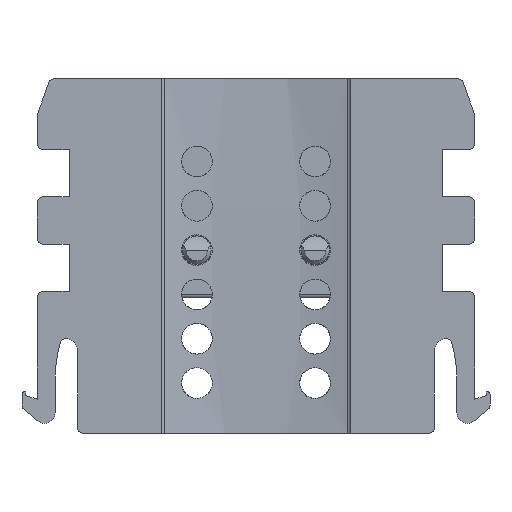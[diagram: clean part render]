
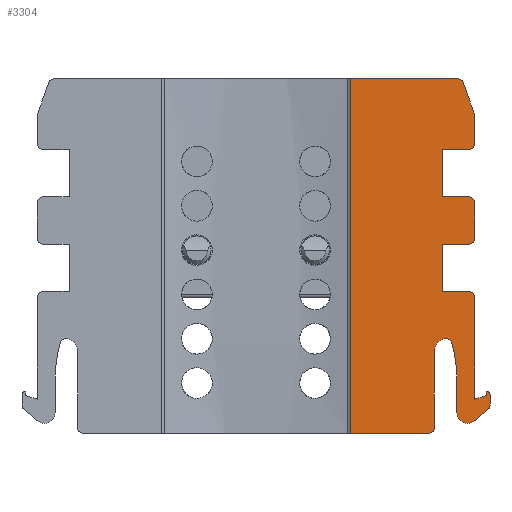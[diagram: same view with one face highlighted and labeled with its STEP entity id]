
A CAD part, front view. The second image highlights one B-rep face of the part: STEP entity #3304.
In plain terms, the highlighted planar face has unit normal (0, -1, 0).
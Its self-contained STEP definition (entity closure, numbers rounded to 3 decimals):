
#1=CARTESIAN_POINT('',(19.3,0.,-27.613));
#2=DIRECTION('',(0.,1.,0.));
#3=DIRECTION('',(1.,0.,0.));
#4=AXIS2_PLACEMENT_3D('',#1,#2,#3);
#6=DIRECTION('',(-0.766,0.,-0.643));
#7=VECTOR('',#6,1.492);
#8=CARTESIAN_POINT('',(19.621,0.,-27.996));
#9=LINE('',#8,#7);
#10=CARTESIAN_POINT('',(17.9,0.,-28.265));
#11=DIRECTION('',(0.,1.,0.));
#12=DIRECTION('',(0.643,0.,-0.766));
#13=AXIS2_PLACEMENT_3D('',#10,#11,#12);
#15=DIRECTION('',(0.,0.,1.));
#16=VECTOR('',#15,2.758);
#17=CARTESIAN_POINT('',(17.,0.,-28.265));
#18=LINE('',#17,#16);
#19=CARTESIAN_POINT('',(5.,0.,-25.507));
#20=DIRECTION('',(0.,-1.,0.));
#21=DIRECTION('',(1.,0.,0.));
#22=AXIS2_PLACEMENT_3D('',#19,#20,#21);
#24=CARTESIAN_POINT('',(16.1,0.,-22.5));
#25=DIRECTION('',(0.,-1.,0.));
#26=DIRECTION('',(0.965,0.,0.261));
#27=AXIS2_PLACEMENT_3D('',#24,#25,#26);
#29=DIRECTION('',(0.,0.,1.));
#30=VECTOR('',#29,6.5);
#31=CARTESIAN_POINT('',(15.1,0.,-29.5));
#32=LINE('',#31,#30);
#33=DIRECTION('',(-1.,0.,0.));
#34=VECTOR('',#33,6.6);
#35=CARTESIAN_POINT('',(14.6,0.,-30.));
#36=LINE('',#35,#34);
#37=DIRECTION('',(0.,0.,-1.));
#38=VECTOR('',#37,30.);
#39=CARTESIAN_POINT('',(8.,0.,0.));
#40=LINE('',#39,#38);
#41=DIRECTION('',(0.342,0.,-0.94));
#42=VECTOR('',#41,2.754);
#43=CARTESIAN_POINT('',(17.528,0.,-0.329));
#44=LINE('',#43,#42);
#45=DIRECTION('',(0.,0.,-1.));
#46=VECTOR('',#45,2.412);
#47=CARTESIAN_POINT('',(18.5,0.,-3.088));
#48=LINE('',#47,#46);
#49=DIRECTION('',(-1.,0.,0.));
#50=VECTOR('',#49,2.2);
#51=CARTESIAN_POINT('',(18.,0.,-6.));
#52=LINE('',#51,#50);
#53=DIRECTION('',(0.,0.,-1.));
#54=VECTOR('',#53,4.);
#55=CARTESIAN_POINT('',(15.8,0.,-6.));
#56=LINE('',#55,#54);
#57=DIRECTION('',(1.,0.,0.));
#58=VECTOR('',#57,2.2);
#59=CARTESIAN_POINT('',(15.8,0.,-10.));
#60=LINE('',#59,#58);
#61=DIRECTION('',(0.,0.,-1.));
#62=VECTOR('',#61,3.);
#63=CARTESIAN_POINT('',(18.5,0.,-10.5));
#64=LINE('',#63,#62);
#65=DIRECTION('',(-1.,0.,0.));
#66=VECTOR('',#65,2.2);
#67=CARTESIAN_POINT('',(18.,0.,-14.));
#68=LINE('',#67,#66);
#69=DIRECTION('',(0.,0.,-1.));
#70=VECTOR('',#69,4.);
#71=CARTESIAN_POINT('',(15.8,0.,-14.));
#72=LINE('',#71,#70);
#73=DIRECTION('',(1.,0.,0.));
#74=VECTOR('',#73,2.2);
#75=CARTESIAN_POINT('',(15.8,0.,-18.));
#76=LINE('',#75,#74);
#77=DIRECTION('',(0.,0.,-1.));
#78=VECTOR('',#77,8.625);
#79=CARTESIAN_POINT('',(18.5,0.,-18.5));
#80=LINE('',#79,#78);
#81=DIRECTION('',(0.951,0.,0.309));
#82=VECTOR('',#81,1.051);
#83=CARTESIAN_POINT('',(18.5,0.,-27.125));
#84=LINE('',#83,#82);
#85=DIRECTION('',(0.,0.,1.));
#86=VECTOR('',#85,0.3);
#87=CARTESIAN_POINT('',(19.5,0.,-26.8));
#88=LINE('',#87,#86);
#89=DIRECTION('',(1.,0.,0.));
#90=VECTOR('',#89,0.1);
#91=CARTESIAN_POINT('',(19.5,0.,-26.5));
#92=LINE('',#91,#90);
#185=DIRECTION('',(0.,0.,1.));
#186=VECTOR('',#185,0.913);
#187=CARTESIAN_POINT('',(19.8,0.,-27.613));
#188=LINE('',#187,#186);
#327=CARTESIAN_POINT('',(16.1,0.,-23.));
#328=DIRECTION('',(0.,1.,0.));
#329=DIRECTION('',(-1.,0.,0.));
#330=AXIS2_PLACEMENT_3D('',#327,#328,#329);
#376=CARTESIAN_POINT('',(18.,0.,-18.5));
#377=DIRECTION('',(0.,-1.,0.));
#378=DIRECTION('',(1.,0.,0.));
#379=AXIS2_PLACEMENT_3D('',#376,#377,#378);
#406=CARTESIAN_POINT('',(19.6,0.,-26.7));
#407=DIRECTION('',(0.,-1.,0.));
#408=DIRECTION('',(1.,0.,0.));
#409=AXIS2_PLACEMENT_3D('',#406,#407,#408);
#424=CARTESIAN_POINT('',(18.,0.,-13.5));
#425=DIRECTION('',(0.,-1.,0.));
#426=DIRECTION('',(0.,0.,-1.));
#427=AXIS2_PLACEMENT_3D('',#424,#425,#426);
#442=CARTESIAN_POINT('',(18.,0.,-10.5));
#443=DIRECTION('',(0.,-1.,0.));
#444=DIRECTION('',(1.,0.,0.));
#445=AXIS2_PLACEMENT_3D('',#442,#443,#444);
#516=CARTESIAN_POINT('',(18.,0.,-5.5));
#517=DIRECTION('',(0.,-1.,0.));
#518=DIRECTION('',(0.,0.,-1.));
#519=AXIS2_PLACEMENT_3D('',#516,#517,#518);
#534=CARTESIAN_POINT('',(18.,0.,-3.088));
#535=DIRECTION('',(0.,-1.,0.));
#536=DIRECTION('',(1.,0.,0.));
#537=AXIS2_PLACEMENT_3D('',#534,#535,#536);
#539=CARTESIAN_POINT('',(18.,0.,-3.088));
#540=DIRECTION('',(0.,-1.,0.));
#541=DIRECTION('',(0.985,0.,0.174));
#542=AXIS2_PLACEMENT_3D('',#539,#540,#541);
#562=CARTESIAN_POINT('',(17.058,0.,-0.5));
#563=DIRECTION('',(0.,-1.,0.));
#564=DIRECTION('',(0.94,0.,0.342));
#565=AXIS2_PLACEMENT_3D('',#562,#563,#564);
#580=DIRECTION('',(-1.,0.,0.));
#581=VECTOR('',#580,9.058);
#582=CARTESIAN_POINT('',(17.058,0.,0.));
#583=LINE('',#582,#581);
#1281=CARTESIAN_POINT('',(14.6,0.,-29.5));
#1282=DIRECTION('',(0.,-1.,0.));
#1283=DIRECTION('',(0.,0.,-1.));
#1284=AXIS2_PLACEMENT_3D('',#1281,#1282,#1283);
#2799=CARTESIAN_POINT('',(15.8,0.,-6.));
#2800=VERTEX_POINT('',#2799);
#2801=CARTESIAN_POINT('',(15.8,0.,-10.));
#2802=VERTEX_POINT('',#2801);
#2803=CARTESIAN_POINT('',(15.8,0.,-14.));
#2804=VERTEX_POINT('',#2803);
#2875=CARTESIAN_POINT('',(18.5,0.,-27.125));
#2876=CARTESIAN_POINT('',(19.5,0.,-26.8));
#2877=VERTEX_POINT('',#2875);
#2878=VERTEX_POINT('',#2876);
#2879=CARTESIAN_POINT('',(19.5,0.,-26.5));
#2880=VERTEX_POINT('',#2879);
#2881=CARTESIAN_POINT('',(17.,0.,-28.265));
#2882=CARTESIAN_POINT('',(17.,0.,-25.507));
#2883=VERTEX_POINT('',#2881);
#2884=VERTEX_POINT('',#2882);
#2899=CARTESIAN_POINT('',(15.8,0.,-18.));
#2900=VERTEX_POINT('',#2899);
#2913=CARTESIAN_POINT('',(15.1,0.,-23.));
#2914=VERTEX_POINT('',#2913);
#2917=CARTESIAN_POINT('',(16.583,0.,-22.369));
#2918=VERTEX_POINT('',#2917);
#2919=CARTESIAN_POINT('',(16.1,0.,-22.));
#2920=VERTEX_POINT('',#2919);
#2991=CARTESIAN_POINT('',(8.,0.,0.));
#2992=CARTESIAN_POINT('',(8.,0.,-30.));
#2993=VERTEX_POINT('',#2991);
#2994=VERTEX_POINT('',#2992);
#3032=CARTESIAN_POINT('',(18.,0.,-6.));
#3034=VERTEX_POINT('',#3032);
#3035=CARTESIAN_POINT('',(18.5,0.,-5.5));
#3036=VERTEX_POINT('',#3035);
#3040=CARTESIAN_POINT('',(18.5,0.,-10.5));
#3042=VERTEX_POINT('',#3040);
#3043=CARTESIAN_POINT('',(18.,0.,-10.));
#3044=VERTEX_POINT('',#3043);
#3048=CARTESIAN_POINT('',(18.,0.,-14.));
#3050=VERTEX_POINT('',#3048);
#3051=CARTESIAN_POINT('',(18.5,0.,-13.5));
#3052=VERTEX_POINT('',#3051);
#3056=CARTESIAN_POINT('',(18.5,0.,-18.5));
#3058=VERTEX_POINT('',#3056);
#3059=CARTESIAN_POINT('',(18.,0.,-18.));
#3060=VERTEX_POINT('',#3059);
#3095=CARTESIAN_POINT('',(18.5,0.,-3.088));
#3096=VERTEX_POINT('',#3095);
#3112=CARTESIAN_POINT('',(19.8,0.,-26.7));
#3114=VERTEX_POINT('',#3112);
#3115=CARTESIAN_POINT('',(19.6,0.,-26.5));
#3116=VERTEX_POINT('',#3115);
#3128=CARTESIAN_POINT('',(14.6,0.,-30.));
#3130=VERTEX_POINT('',#3128);
#3131=CARTESIAN_POINT('',(15.1,0.,-29.5));
#3132=VERTEX_POINT('',#3131);
#3135=CARTESIAN_POINT('',(18.492,0.,-3.001));
#3136=VERTEX_POINT('',#3135);
#3137=CARTESIAN_POINT('',(18.47,0.,-2.917));
#3138=VERTEX_POINT('',#3137);
#3144=CARTESIAN_POINT('',(17.528,0.,-0.329));
#3146=VERTEX_POINT('',#3144);
#3147=CARTESIAN_POINT('',(17.058,0.,0.));
#3148=VERTEX_POINT('',#3147);
#3205=CARTESIAN_POINT('',(18.479,0.,-28.955));
#3207=VERTEX_POINT('',#3205);
#3209=CARTESIAN_POINT('',(19.621,0.,-27.996));
#3210=VERTEX_POINT('',#3209);
#3211=CARTESIAN_POINT('',(19.8,0.,-27.613));
#3212=VERTEX_POINT('',#3211);
#3229=CARTESIAN_POINT('',(0.,0.,0.));
#3230=DIRECTION('',(0.,1.,0.));
#3231=DIRECTION('',(1.,0.,0.));
#3232=AXIS2_PLACEMENT_3D('',#3229,#3230,#3231);
#3233=PLANE('',#3232);
#3235=ORIENTED_EDGE('',*,*,#3234,.F.);
#3237=ORIENTED_EDGE('',*,*,#3236,.T.);
#3239=ORIENTED_EDGE('',*,*,#3238,.T.);
#3241=ORIENTED_EDGE('',*,*,#3240,.T.);
#3243=ORIENTED_EDGE('',*,*,#3242,.T.);
#3245=ORIENTED_EDGE('',*,*,#3244,.T.);
#3247=ORIENTED_EDGE('',*,*,#3246,.T.);
#3249=ORIENTED_EDGE('',*,*,#3248,.F.);
#3251=ORIENTED_EDGE('',*,*,#3250,.F.);
#3253=ORIENTED_EDGE('',*,*,#3252,.F.);
#3255=ORIENTED_EDGE('',*,*,#3254,.T.);
#3257=ORIENTED_EDGE('',*,*,#3256,.F.);
#3259=ORIENTED_EDGE('',*,*,#3258,.F.);
#3261=ORIENTED_EDGE('',*,*,#3260,.F.);
#3263=ORIENTED_EDGE('',*,*,#3262,.T.);
#3265=ORIENTED_EDGE('',*,*,#3264,.F.);
#3267=ORIENTED_EDGE('',*,*,#3266,.F.);
#3269=ORIENTED_EDGE('',*,*,#3268,.T.);
#3271=ORIENTED_EDGE('',*,*,#3270,.F.);
#3273=ORIENTED_EDGE('',*,*,#3272,.T.);
#3275=ORIENTED_EDGE('',*,*,#3274,.T.);
#3277=ORIENTED_EDGE('',*,*,#3276,.T.);
#3279=ORIENTED_EDGE('',*,*,#3278,.F.);
#3281=ORIENTED_EDGE('',*,*,#3280,.T.);
#3283=ORIENTED_EDGE('',*,*,#3282,.F.);
#3285=ORIENTED_EDGE('',*,*,#3284,.T.);
#3287=ORIENTED_EDGE('',*,*,#3286,.T.);
#3289=ORIENTED_EDGE('',*,*,#3288,.T.);
#3291=ORIENTED_EDGE('',*,*,#3290,.F.);
#3293=ORIENTED_EDGE('',*,*,#3292,.T.);
#3295=ORIENTED_EDGE('',*,*,#3294,.T.);
#3297=ORIENTED_EDGE('',*,*,#3296,.T.);
#3299=ORIENTED_EDGE('',*,*,#3298,.T.);
#3301=ORIENTED_EDGE('',*,*,#3300,.F.);
#3302=EDGE_LOOP('',(#3235,#3237,#3239,#3241,#3243,#3245,#3247,#3249,#3251,#3253,
#3255,#3257,#3259,#3261,#3263,#3265,#3267,#3269,#3271,#3273,#3275,#3277,#3279,
#3281,#3283,#3285,#3287,#3289,#3291,#3293,#3295,#3297,#3299,#3301));
#3303=FACE_OUTER_BOUND('',#3302,.F.);
#3304=ADVANCED_FACE('',(#3303),#3233,.F.);
#5=CIRCLE('',#4,0.5);
#14=CIRCLE('',#13,0.9);
#23=CIRCLE('',#22,12.);
#28=CIRCLE('',#27,0.5);
#331=CIRCLE('',#330,1.);
#380=CIRCLE('',#379,0.5);
#410=CIRCLE('',#409,0.2);
#428=CIRCLE('',#427,0.5);
#446=CIRCLE('',#445,0.5);
#520=CIRCLE('',#519,0.5);
#538=CIRCLE('',#537,0.5);
#543=CIRCLE('',#542,0.5);
#566=CIRCLE('',#565,0.5);
#1285=CIRCLE('',#1284,0.5);
#3234=EDGE_CURVE('',#3212,#3114,#188,.T.);
#3236=EDGE_CURVE('',#3212,#3210,#5,.T.);
#3238=EDGE_CURVE('',#3210,#3207,#9,.T.);
#3240=EDGE_CURVE('',#3207,#2883,#14,.T.);
#3242=EDGE_CURVE('',#2883,#2884,#18,.T.);
#3244=EDGE_CURVE('',#2884,#2918,#23,.T.);
#3246=EDGE_CURVE('',#2918,#2920,#28,.T.);
#3248=EDGE_CURVE('',#2914,#2920,#331,.T.);
#3250=EDGE_CURVE('',#3132,#2914,#32,.T.);
#3252=EDGE_CURVE('',#3130,#3132,#1285,.T.);
#3254=EDGE_CURVE('',#3130,#2994,#36,.T.);
#3256=EDGE_CURVE('',#2993,#2994,#40,.T.);
#3258=EDGE_CURVE('',#3148,#2993,#583,.T.);
#3260=EDGE_CURVE('',#3146,#3148,#566,.T.);
#3262=EDGE_CURVE('',#3146,#3138,#44,.T.);
#3264=EDGE_CURVE('',#3136,#3138,#543,.T.);
#3266=EDGE_CURVE('',#3096,#3136,#538,.T.);
#3268=EDGE_CURVE('',#3096,#3036,#48,.T.);
#3270=EDGE_CURVE('',#3034,#3036,#520,.T.);
#3272=EDGE_CURVE('',#3034,#2800,#52,.T.);
#3274=EDGE_CURVE('',#2800,#2802,#56,.T.);
#3276=EDGE_CURVE('',#2802,#3044,#60,.T.);
#3278=EDGE_CURVE('',#3042,#3044,#446,.T.);
#3280=EDGE_CURVE('',#3042,#3052,#64,.T.);
#3282=EDGE_CURVE('',#3050,#3052,#428,.T.);
#3284=EDGE_CURVE('',#3050,#2804,#68,.T.);
#3286=EDGE_CURVE('',#2804,#2900,#72,.T.);
#3288=EDGE_CURVE('',#2900,#3060,#76,.T.);
#3290=EDGE_CURVE('',#3058,#3060,#380,.T.);
#3292=EDGE_CURVE('',#3058,#2877,#80,.T.);
#3294=EDGE_CURVE('',#2877,#2878,#84,.T.);
#3296=EDGE_CURVE('',#2878,#2880,#88,.T.);
#3298=EDGE_CURVE('',#2880,#3116,#92,.T.);
#3300=EDGE_CURVE('',#3114,#3116,#410,.T.);
